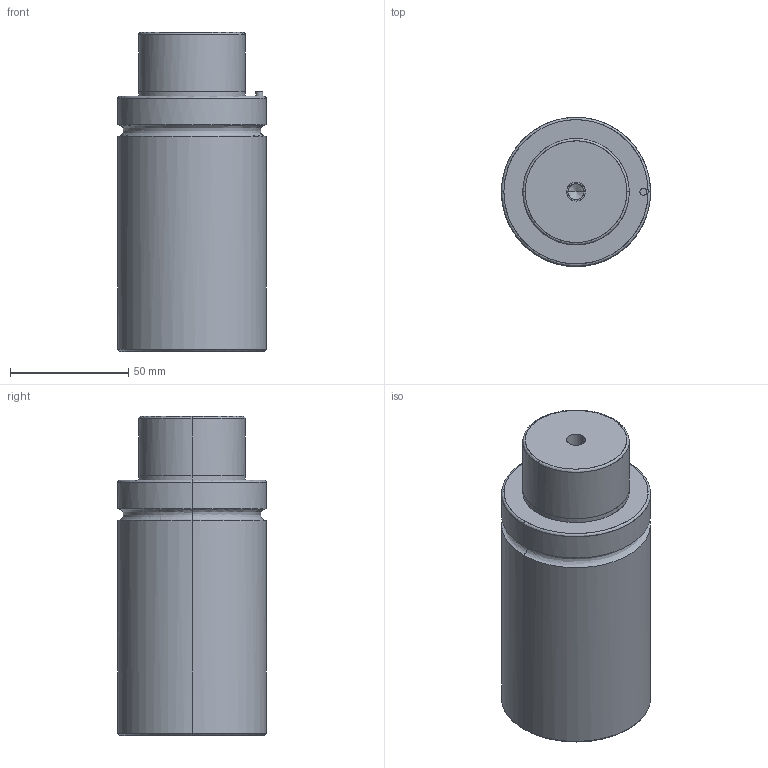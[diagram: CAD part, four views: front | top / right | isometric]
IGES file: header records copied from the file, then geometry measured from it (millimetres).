
Global section: file name: E:\UnigraphicsGraphicData\MISUMI_PRESS-PARTS\IGES\3d_gsm63-25_03953_r00.igs; native system: NX V5.0; preprocessor: UGS NX IGES V5.0; author: MISUMI; date: 20110105.160818; units: millimetre
Bounding box: 63 x 62.94 x 135 mm (x, y, z)
Surface area: 33113.2 mm2 (no closed solid volume)
Topology: 0 solids, 0 shells, 50 faces, 344 edges, 336 vertices
Faces by surface type: bspline 50
